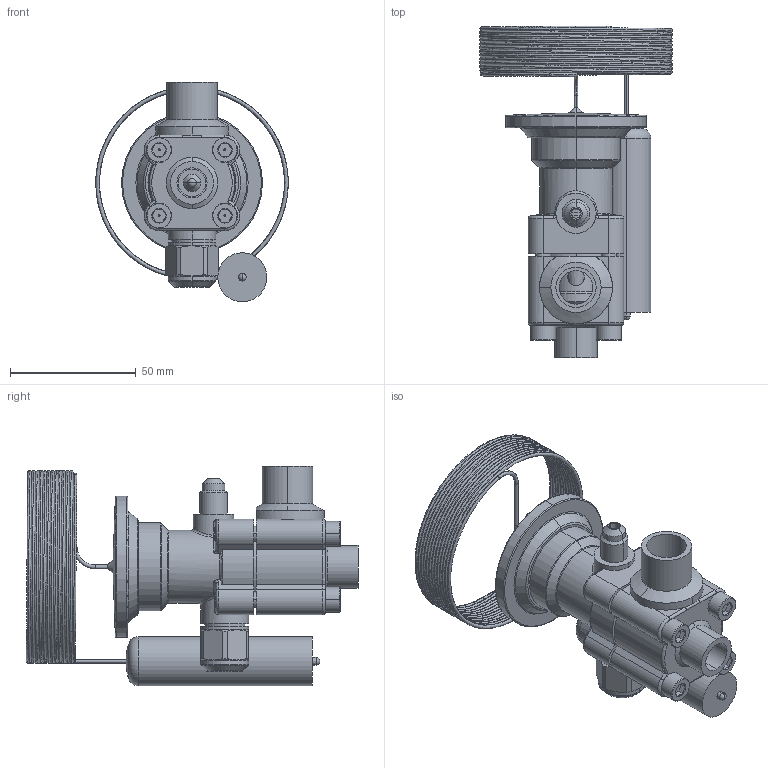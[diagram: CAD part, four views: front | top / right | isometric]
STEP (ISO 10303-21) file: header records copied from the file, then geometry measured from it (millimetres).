
FILE_DESCRIPTION(('STEP AP203'), '1');
FILE_NAME('疻惛5.stp', '2011-03-10T15:50:51', ('UNSPECIFIED'), ('UNSPECIFIED'), 'ASCON STEP Converter 1.0', 'Kompas 3D', '');
FILE_SCHEMA(('CONFIG_CONTROL_DESIGN'));
Length unit declared in the file: millimetre
Products named in the file (18): 1; 2; 3; 4; 5; 6; 7; 8; 9; 10; 11; 12; 13; 14; 15; 16; 17; 18
Assembly tree (21 placements, depth 3):
  1
    2
    3
      4
      5
      6
      7
      8
      9
      10
      11
      12
    13  x2
    14
      15
      16
      17
    18  x4
Bounding box: 76.44 x 131.9 x 87.25 mm (x, y, z)
Volume: 126653.1 mm3; surface area: 72592.3 mm2
Topology: 19 solids, 20 shells, 688 faces, 1609 edges, 979 vertices
Faces by surface type: cylinder 299, plane 184, cone 120, torus 62, bspline 17, sphere 6
Entity records: 36447 total; most frequent: CARTESIAN_POINT 19916, DIRECTION 3227, ORIENTED_EDGE 2846, EDGE_CURVE 1423, AXIS2_PLACEMENT_3D 1326, VERTEX_POINT 884, CIRCLE 723, EDGE_LOOP 681
